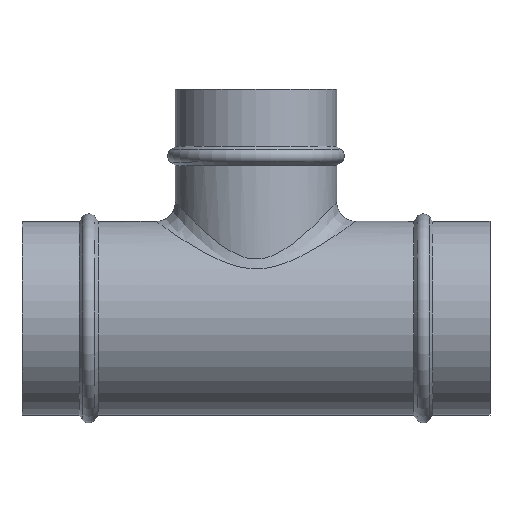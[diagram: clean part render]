
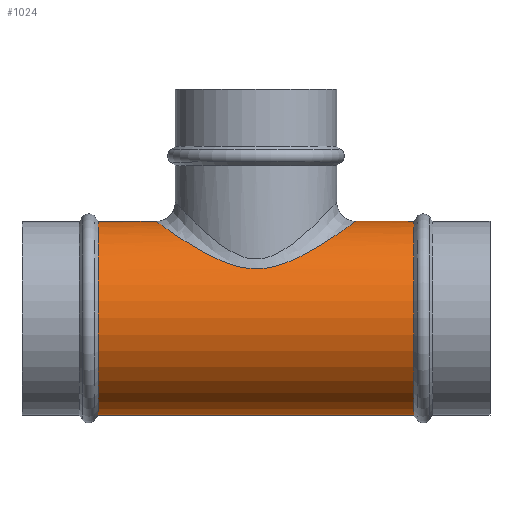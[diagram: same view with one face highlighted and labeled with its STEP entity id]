
A CAD part, top view. The second image highlights one B-rep face of the part: STEP entity #1024.
In plain terms, the highlighted cylindrical face has radius 50.75 mm (diameter 101.5 mm), a partial arc.
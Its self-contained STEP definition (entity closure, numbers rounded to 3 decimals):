
#210=CARTESIAN_POINT('',(-52.25,50.75,
0.));
#211=CARTESIAN_POINT('',(-52.25,50.75,1.858));
#212=CARTESIAN_POINT('',(-51.964,50.545,5.622));
#213=CARTESIAN_POINT('',(-50.625,49.585,11.35));
#214=CARTESIAN_POINT('',(-48.261,47.909,17.042));
#215=CARTESIAN_POINT('',(-45.547,46.017,21.551));
#216=CARTESIAN_POINT('',(-42.793,44.133,25.15));
#217=CARTESIAN_POINT('',(-40.095,42.328,28.057));
#218=CARTESIAN_POINT('',(-37.411,40.574,30.537));
#219=CARTESIAN_POINT('',(-34.251,38.573,33.031));
#220=CARTESIAN_POINT('',(-30.881,36.53,35.27));
#221=CARTESIAN_POINT('',(-27.382,34.525,37.228));
#222=CARTESIAN_POINT('',(-23.852,32.642,38.884));
#223=CARTESIAN_POINT('',(-20.047,30.79,40.368));
#224=CARTESIAN_POINT('',(-15.29,28.777,41.826));
#225=CARTESIAN_POINT('',(-9.626,26.988,42.99));
#226=CARTESIAN_POINT('',(-4.383,26.04,43.561));
#227=CARTESIAN_POINT('',(0.446,25.788,43.709));
#228=CARTESIAN_POINT('',(5.394,26.166,43.487));
#229=CARTESIAN_POINT('',(10.697,27.278,42.808));
#230=CARTESIAN_POINT('',(16.002,29.06,41.629));
#231=CARTESIAN_POINT('',(20.528,31.012,40.196));
#232=CARTESIAN_POINT('',(24.299,32.872,38.691));
#233=CARTESIAN_POINT('',(27.811,34.764,37.005));
#234=CARTESIAN_POINT('',(31.221,36.733,35.058));
#235=CARTESIAN_POINT('',(34.509,38.734,32.84));
#236=CARTESIAN_POINT('',(37.595,40.693,30.377));
#237=CARTESIAN_POINT('',(40.227,42.415,27.923));
#238=CARTESIAN_POINT('',(42.887,44.196,25.036));
#239=CARTESIAN_POINT('',(45.602,46.055,21.465));
#240=CARTESIAN_POINT('',(48.277,47.92,17.004));
#241=CARTESIAN_POINT('',(50.623,49.583,11.356));
#242=CARTESIAN_POINT('',(51.965,50.545,5.622));
#243=CARTESIAN_POINT('',(52.25,50.75,1.86));
#244=CARTESIAN_POINT('',(52.25,50.75,0.));
#249=CARTESIAN_POINT('',(82.458,0.,0.));
#250=DIRECTION('',(1.,0.,0.));
#251=DIRECTION('',(0.,1.,0.));
#252=AXIS2_PLACEMENT_3D('',#249,#250,#251);
#257=CARTESIAN_POINT('',(-82.458,0.,0.));
#258=DIRECTION('',(1.,0.,0.));
#259=DIRECTION('',(0.,1.,0.));
#260=AXIS2_PLACEMENT_3D('',#257,#258,#259);
#331=CARTESIAN_POINT('',(52.25,50.75,0.));
#365=CARTESIAN_POINT('',(-52.25,50.75,
0.));
#370=DIRECTION('',(-1.,0.,0.));
#371=VECTOR('',#370,30.208);
#372=CARTESIAN_POINT('',(-52.25,50.75,
0.));
#373=LINE('',#372,#371);
#385=DIRECTION('',(-1.,0.,0.));
#386=VECTOR('',#385,164.916);
#387=CARTESIAN_POINT('',(82.458,-50.75,0.));
#388=LINE('',#387,#386);
#400=DIRECTION('',(-1.,0.,0.));
#401=VECTOR('',#400,30.208);
#402=CARTESIAN_POINT('',(82.458,50.75,0.));
#403=LINE('',#402,#401);
#857=CARTESIAN_POINT('',(82.458,50.75,0.));
#858=CARTESIAN_POINT('',(82.458,-50.75,0.));
#859=VERTEX_POINT('',#857);
#860=VERTEX_POINT('',#858);
#861=CARTESIAN_POINT('',(-82.458,50.75,0.));
#862=CARTESIAN_POINT('',(-82.458,-50.75,0.));
#863=VERTEX_POINT('',#861);
#864=VERTEX_POINT('',#862);
#897=VERTEX_POINT('',#331);
#898=VERTEX_POINT('',#365);
#1005=CARTESIAN_POINT('',(-134.75,0.,0.));
#1006=DIRECTION('',(1.,0.,0.));
#1007=DIRECTION('',(0.,-1.,0.));
#1008=AXIS2_PLACEMENT_3D('',#1005,#1006,#1007);
#1009=CYLINDRICAL_SURFACE('',#1008,50.75);
#1011=ORIENTED_EDGE('',*,*,#1010,.T.);
#1013=ORIENTED_EDGE('',*,*,#1012,.F.);
#1015=ORIENTED_EDGE('',*,*,#1014,.T.);
#1017=ORIENTED_EDGE('',*,*,#1016,.T.);
#1019=ORIENTED_EDGE('',*,*,#1018,.F.);
#1021=ORIENTED_EDGE('',*,*,#1020,.F.);
#1022=EDGE_LOOP('',(#1011,#1013,#1015,#1017,#1019,#1021));
#1023=FACE_OUTER_BOUND('',#1022,.F.);
#245=B_SPLINE_CURVE_WITH_KNOTS('',3,(#210,#211,#212,#213,#214,#215,#216,#217,
#218,#219,#220,#221,#222,#223,#224,#225,#226,#227,#228,#229,#230,#231,#232,#233,
#234,#235,#236,#237,#238,#239,#240,#241,#242,#243,#244),.UNSPECIFIED.,.F.,.F.,
(4,1,1,1,1,1,1,1,1,1,1,1,1,1,1,1,1,1,1,1,1,1,1,1,1,1,1,1,1,1,1,1,4),(0.,
0.031,0.063,0.094,0.125,0.156,0.188,0.219,0.25,0.281,
0.313,0.344,0.375,0.406,0.438,0.469,0.5,0.531,
0.563,0.594,0.625,0.656,0.688,0.719,0.75,0.781,
0.813,0.844,0.875,0.906,0.938,0.969,1.),.UNSPECIFIED.);
#253=CIRCLE('',#252,50.75);
#261=CIRCLE('',#260,50.75);
#1010=EDGE_CURVE('',#898,#897,#245,.T.);
#1012=EDGE_CURVE('',#859,#897,#403,.T.);
#1014=EDGE_CURVE('',#859,#860,#253,.T.);
#1016=EDGE_CURVE('',#860,#864,#388,.T.);
#1018=EDGE_CURVE('',#863,#864,#261,.T.);
#1020=EDGE_CURVE('',#898,#863,#373,.T.);
#1024=ADVANCED_FACE('',(#1023),#1009,.T.);
